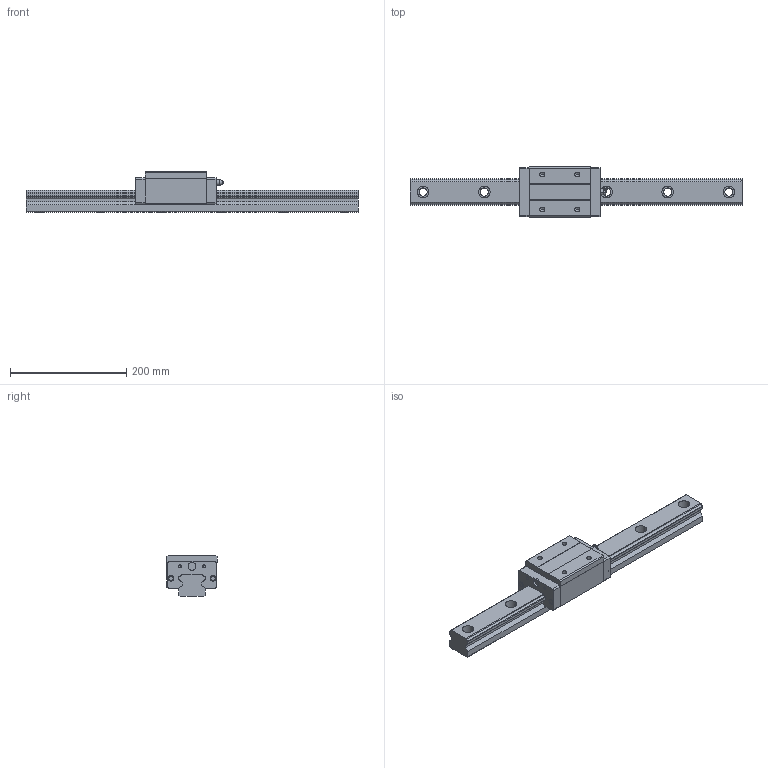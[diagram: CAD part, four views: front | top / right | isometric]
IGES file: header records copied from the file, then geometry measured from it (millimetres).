
Global section: file name: No Iges File Name specified; native system: AutoDesk Inventor R10; preprocessor: AutoDesk Inventor Iges Exporter R10; author: No Author specified; organization: No Organization specified; date: 20101222.163524; units: millimetre
Bounding box: 570 x 86 x 70 mm (x, y, z)
Surface area: 166149.2 mm2 (no closed solid volume)
Topology: 0 solids, 0 shells, 212 faces, 1395 edges, 1375 vertices
Faces by surface type: bspline 212
